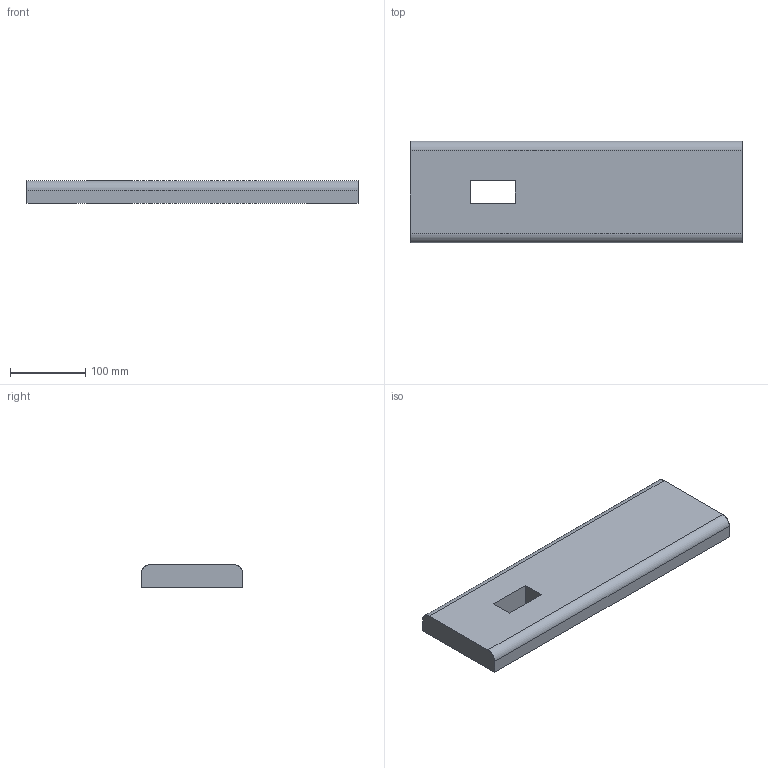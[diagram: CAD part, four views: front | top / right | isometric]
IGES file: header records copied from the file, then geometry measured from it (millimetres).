
Start section: SolidWorks IGES file using analytic representation for surfaces
Global section: file name: C:\Users\WZL\Desktop\標撿\seeed\20240518\釱啣.IGS; native system: SolidWorks 2016; preprocessor: SolidWorks 2016; author: WZL; date: 240518.213406; units: millimetre
Bounding box: 440 x 135 x 30 mm (x, y, z)
Surface area: 158783.4 mm2 (no closed solid volume)
Topology: 0 solids, 0 shells, 50 faces, 280 edges, 280 vertices
Faces by surface type: bspline 48, revolution 2
